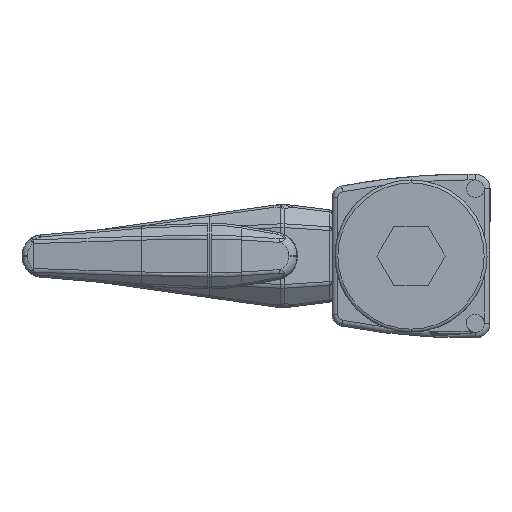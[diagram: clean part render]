
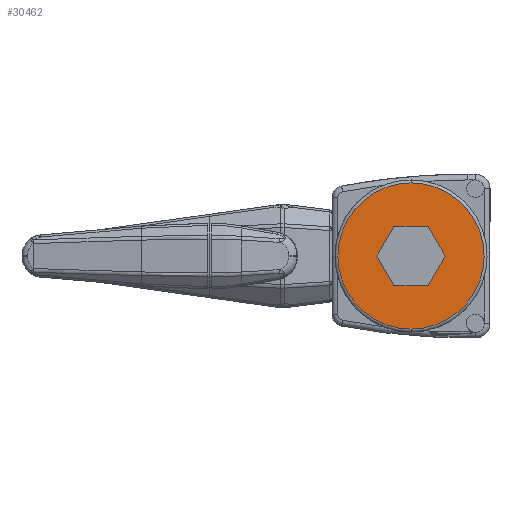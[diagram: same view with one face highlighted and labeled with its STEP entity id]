
A CAD part, left-side view. The second image highlights one B-rep face of the part: STEP entity #30462.
In plain terms, the highlighted planar face has unit normal (-1, 0, 0).
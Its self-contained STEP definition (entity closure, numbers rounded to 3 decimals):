
#2771 = EDGE_LOOP ( 'NONE', ( #48577, #99554, #113444, #126672, #142711, #34649 ) ) ;
#4339 = CARTESIAN_POINT ( 'NONE',  ( -17.634, 81.75, 114.102 ) ) ;
#9415 = EDGE_CURVE ( 'NONE', #26123, #36201, #19358, .T. ) ;
#10593 = DIRECTION ( 'NONE',  ( 0., 0.5, 0.866 ) ) ;
#15813 = DIRECTION ( 'NONE',  ( 0., -1., 0. ) ) ;
#17893 = CIRCLE ( 'NONE', #108392, 12.5 ) ;
#18687 = CARTESIAN_POINT ( 'NONE',  ( -17.634, 84.666, 119.152 ) ) ;
#19358 = LINE ( 'NONE', #80893, #103726 ) ;
#19997 = CIRCLE ( 'NONE', #65766, 12.5 ) ;
#20331 = DIRECTION ( 'NONE',  ( 0., 0., 1. ) ) ;
#21925 = EDGE_CURVE ( 'NONE', #183315, #133620, #54372, .T. ) ;
#22595 = DIRECTION ( 'NONE',  ( -1., 0., 0. ) ) ;
#24819 = EDGE_LOOP ( 'NONE', ( #153943, #83991 ) ) ;
#26123 = VERTEX_POINT ( 'NONE', #138167 ) ;
#27372 = VERTEX_POINT ( 'NONE', #190469 ) ;
#30462 = ADVANCED_FACE ( 'NONE', ( #164479, #132222 ), #53798, .T. ) ;
#30544 = LINE ( 'NONE', #141920, #109967 ) ;
#31042 = VECTOR ( 'NONE', #15813, 1000. ) ;
#34649 = ORIENTED_EDGE ( 'NONE', *, *, #160800, .F. ) ;
#35642 = CARTESIAN_POINT ( 'NONE',  ( -17.634, 81.75, 114.102 ) ) ;
#36201 = VERTEX_POINT ( 'NONE', #85340 ) ;
#48577 = ORIENTED_EDGE ( 'NONE', *, *, #64452, .F. ) ;
#50769 = VERTEX_POINT ( 'NONE', #197384 ) ;
#51544 = DIRECTION ( 'NONE',  ( 0., 0., 1. ) ) ;
#51979 = EDGE_CURVE ( 'NONE', #133988, #26123, #73197, .T. ) ;
#53798 = PLANE ( 'NONE',  #109412 ) ;
#54372 = LINE ( 'NONE', #176933, #133793 ) ;
#63430 = CARTESIAN_POINT ( 'NONE',  ( -17.634, 84.666, 109.052 ) ) ;
#64452 = EDGE_CURVE ( 'NONE', #133620, #50769, #103278, .T. ) ;
#65766 = AXIS2_PLACEMENT_3D ( 'NONE', #35642, #146661, #51544 ) ;
#65987 = VECTOR ( 'NONE', #159138, 1000. ) ;
#70129 = LINE ( 'NONE', #200646, #149620 ) ;
#73197 = LINE ( 'NONE', #126727, #31042 ) ;
#80893 = CARTESIAN_POINT ( 'NONE',  ( -17.634, 78.834, 109.052 ) ) ;
#83991 = ORIENTED_EDGE ( 'NONE', *, *, #202489, .T. ) ;
#85340 = CARTESIAN_POINT ( 'NONE',  ( -17.634, 75.919, 114.102 ) ) ;
#92776 = CARTESIAN_POINT ( 'NONE',  ( -17.634, 78.834, 119.152 ) ) ;
#99554 = ORIENTED_EDGE ( 'NONE', *, *, #21925, .F. ) ;
#103278 = LINE ( 'NONE', #111314, #65987 ) ;
#103726 = VECTOR ( 'NONE', #142616, 1000. ) ;
#108392 = AXIS2_PLACEMENT_3D ( 'NONE', #4339, #115369, #20331 ) ;
#109412 = AXIS2_PLACEMENT_3D ( 'NONE', #117654, #22595, #133563 ) ;
#109967 = VECTOR ( 'NONE', #157856, 1000. ) ;
#111314 = CARTESIAN_POINT ( 'NONE',  ( -17.634, 84.666, 119.152 ) ) ;
#113444 = ORIENTED_EDGE ( 'NONE', *, *, #170456, .F. ) ;
#115369 = DIRECTION ( 'NONE',  ( -1., 0., 0. ) ) ;
#117654 = CARTESIAN_POINT ( 'NONE',  ( -17.634, 94.75, 114.102 ) ) ;
#126672 = ORIENTED_EDGE ( 'NONE', *, *, #9415, .F. ) ;
#126727 = CARTESIAN_POINT ( 'NONE',  ( -17.634, 84.666, 109.052 ) ) ;
#132222 = FACE_BOUND ( 'NONE', #2771, .T. ) ;
#133563 = DIRECTION ( 'NONE',  ( 0., 0., 1. ) ) ;
#133620 = VERTEX_POINT ( 'NONE', #18687 ) ;
#133793 = VECTOR ( 'NONE', #192864, 1000. ) ;
#133988 = VERTEX_POINT ( 'NONE', #63430 ) ;
#138167 = CARTESIAN_POINT ( 'NONE',  ( -17.634, 78.834, 109.052 ) ) ;
#141201 = CARTESIAN_POINT ( 'NONE',  ( -17.634, 81.75, 126.602 ) ) ;
#141920 = CARTESIAN_POINT ( 'NONE',  ( -17.634, 87.581, 114.102 ) ) ;
#142616 = DIRECTION ( 'NONE',  ( 0., -0.5, 0.866 ) ) ;
#142711 = ORIENTED_EDGE ( 'NONE', *, *, #51979, .F. ) ;
#146661 = DIRECTION ( 'NONE',  ( -1., 0., 0. ) ) ;
#149620 = VECTOR ( 'NONE', #10593, 1000. ) ;
#153943 = ORIENTED_EDGE ( 'NONE', *, *, #184742, .T. ) ;
#157856 = DIRECTION ( 'NONE',  ( 0., -0.5, -0.866 ) ) ;
#159138 = DIRECTION ( 'NONE',  ( 0., 0.5, -0.866 ) ) ;
#160800 = EDGE_CURVE ( 'NONE', #50769, #133988, #30544, .T. ) ;
#164479 = FACE_OUTER_BOUND ( 'NONE', #24819, .T. ) ;
#170456 = EDGE_CURVE ( 'NONE', #36201, #183315, #70129, .T. ) ;
#176933 = CARTESIAN_POINT ( 'NONE',  ( -17.634, 78.834, 119.152 ) ) ;
#177921 = VERTEX_POINT ( 'NONE', #141201 ) ;
#183315 = VERTEX_POINT ( 'NONE', #92776 ) ;
#184742 = EDGE_CURVE ( 'NONE', #177921, #27372, #17893, .T. ) ;
#190469 = CARTESIAN_POINT ( 'NONE',  ( -17.634, 81.75, 101.602 ) ) ;
#192864 = DIRECTION ( 'NONE',  ( 0., 1., 0. ) ) ;
#197384 = CARTESIAN_POINT ( 'NONE',  ( -17.634, 87.581, 114.102 ) ) ;
#200646 = CARTESIAN_POINT ( 'NONE',  ( -17.634, 75.919, 114.102 ) ) ;
#202489 = EDGE_CURVE ( 'NONE', #27372, #177921, #19997, .T. ) ;
